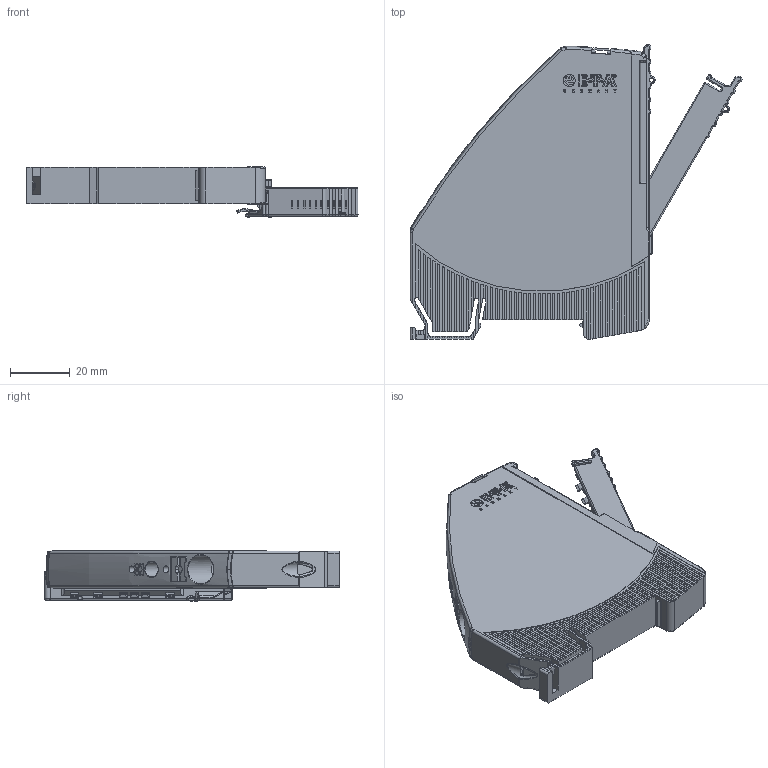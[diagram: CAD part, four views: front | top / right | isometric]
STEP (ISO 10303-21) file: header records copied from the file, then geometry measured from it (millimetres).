
FILE_DESCRIPTION((''),'2;1');
FILE_NAME('T-EM12-T00-100-LINE_ASM','2017-06-08T',('hroth'),(''),'PRO/ENGINEER BY PARAMETRIC TECHNOLOGY CORPORATION, 2014200','PRO/ENGINEER BY PARAMETRIC TECHNOLOGY CORPORATION, 2014200','');
FILE_SCHEMA(('AUTOMOTIVE_DESIGN { 1 0 10303 214 1 1 1 1 }'));
Products named in the file (3): T-EM12-T00-100-LINE_GEH; T-REX12-TXX_HEB-SI2; T-EM12-T00-100-LINE_ASM
Assembly tree (3 placements, depth 2):
  T-EM12-T00-100-LINE_ASM
    T-EM12-T00-100-LINE_GEH
    T-REX12-TXX_HEB-SI2  x2
Bounding box: 110.9 x 98.5 x 16.9 mm (x, y, z)
Volume: 72444.1 mm3; surface area: 27458.8 mm2
Topology: 3 solids, 3 shells, 2291 faces, 6244 edges, 4009 vertices
Faces by surface type: plane 1455, cylinder 573, torus 101, bspline 81, extrusion 41, cone 24, sphere 16
Entity records: 69103 total; most frequent: CARTESIAN_POINT 17441, ORIENTED_EDGE 9980, DIRECTION 9044, EDGE_CURVE 4990, VECTOR 3630, LINE 3589, VERTEX_POINT 3240, AXIS2_PLACEMENT_3D 2707
